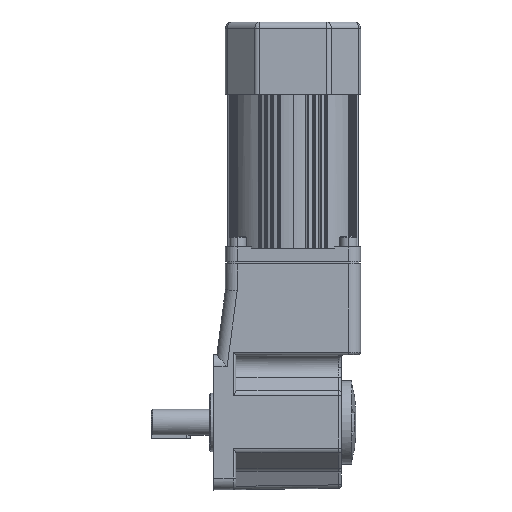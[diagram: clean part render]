
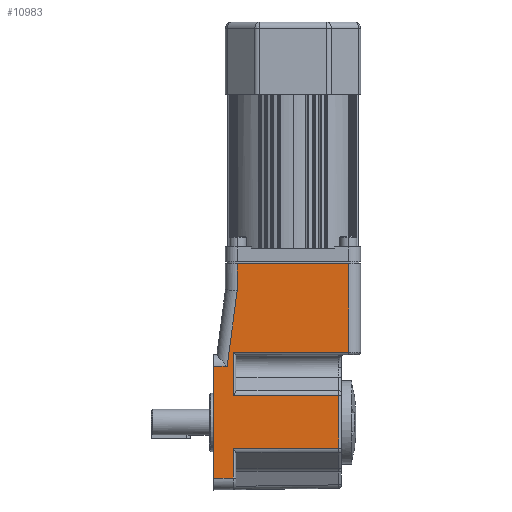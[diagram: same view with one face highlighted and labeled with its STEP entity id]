
A CAD part, left-side view. The second image highlights one B-rep face of the part: STEP entity #10983.
In plain terms, the highlighted planar face has unit normal (-1, 0, 0).
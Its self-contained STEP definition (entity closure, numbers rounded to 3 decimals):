
#150 = ORIENTED_EDGE ( 'NONE', *, *, #320, .F. ) ;
#320 = EDGE_CURVE ( 'NONE', #40472, #17712, #39098, .T. ) ;
#1193 = DIRECTION ( 'NONE',  ( 0., 0., 1. ) ) ;
#1948 = CARTESIAN_POINT ( 'NONE',  ( -52., -116.5, 52. ) ) ;
#4056 = CARTESIAN_POINT ( 'NONE',  ( -52., -21.5, 122. ) ) ;
#4383 = DIRECTION ( 'NONE',  ( 0., 1., 0. ) ) ;
#4481 = VECTOR ( 'NONE', #4383, 1000. ) ;
#5791 = DIRECTION ( 'NONE',  ( 1., 0., 0. ) ) ;
#6692 = CARTESIAN_POINT ( 'NONE',  ( -52., -18.5, 52. ) ) ;
#6716 = VECTOR ( 'NONE', #33221, 1000. ) ;
#7794 = VECTOR ( 'NONE', #29764, 1000. ) ;
#10026 = ORIENTED_EDGE ( 'NONE', *, *, #32761, .F. ) ;
#10575 = VECTOR ( 'NONE', #25429, 1000. ) ;
#10983 = ADVANCED_FACE ( 'NONE', ( #26076 ), #24693, .F. ) ;
#11505 = EDGE_LOOP ( 'NONE', ( #40462, #16150, #31699, #41506, #25168, #29544, #44488, #150, #39519, #10026, #32026, #40245, #19969 ) ) ;
#11749 = LINE ( 'NONE', #6692, #10575 ) ;
#12468 = VERTEX_POINT ( 'NONE', #37176 ) ;
#13934 = VECTOR ( 'NONE', #20996, 1000. ) ;
#14550 = VECTOR ( 'NONE', #39089, 1000. ) ;
#14622 = CARTESIAN_POINT ( 'NONE',  ( -52., -18.5, 20.536 ) ) ;
#15272 = EDGE_CURVE ( 'NONE', #19710, #36243, #11749, .T. ) ;
#15413 = VERTEX_POINT ( 'NONE', #18604 ) ;
#16150 = ORIENTED_EDGE ( 'NONE', *, *, #19119, .F. ) ;
#16191 = VECTOR ( 'NONE', #38711, 1000. ) ;
#16797 = LINE ( 'NONE', #29382, #6716 ) ;
#17712 = VERTEX_POINT ( 'NONE', #20836 ) ;
#17879 = LINE ( 'NONE', #45041, #7794 ) ;
#17955 = EDGE_CURVE ( 'NONE', #12468, #20166, #25843, .T. ) ;
#18604 = CARTESIAN_POINT ( 'NONE',  ( -52., -18.5, -42.79 ) ) ;
#19067 = DIRECTION ( 'NONE',  ( 0., 1., 0. ) ) ;
#19119 = EDGE_CURVE ( 'NONE', #20166, #25472, #24033, .T. ) ;
#19625 = EDGE_CURVE ( 'NONE', #15413, #45744, #38888, .T. ) ;
#19710 = VERTEX_POINT ( 'NONE', #42183 ) ;
#19969 = ORIENTED_EDGE ( 'NONE', *, *, #19986, .F. ) ;
#19986 = EDGE_CURVE ( 'NONE', #32813, #30918, #35907, .T. ) ;
#20166 = VERTEX_POINT ( 'NONE', #30176 ) ;
#20836 = CARTESIAN_POINT ( 'NONE',  ( -52., -18.5, -19.741 ) ) ;
#20996 = DIRECTION ( 'NONE',  ( 0., 0., 1. ) ) ;
#21376 = VECTOR ( 'NONE', #1193, 1000. ) ;
#22353 = CARTESIAN_POINT ( 'NONE',  ( -52., -107.5, 122. ) ) ;
#22561 = LINE ( 'NONE', #23772, #21376 ) ;
#23772 = CARTESIAN_POINT ( 'NONE',  ( -52., -3.5, 52. ) ) ;
#23779 = CARTESIAN_POINT ( 'NONE',  ( -52., -3.5, 43. ) ) ;
#24033 = LINE ( 'NONE', #28471, #13934 ) ;
#24693 = PLANE ( 'NONE',  #25488 ) ;
#24711 = CARTESIAN_POINT ( 'NONE',  ( -52., -18.5, 52. ) ) ;
#25168 = ORIENTED_EDGE ( 'NONE', *, *, #48501, .F. ) ;
#25207 = DIRECTION ( 'NONE',  ( 0., 0., -1. ) ) ;
#25429 = DIRECTION ( 'NONE',  ( 0., 0., -1. ) ) ;
#25472 = VERTEX_POINT ( 'NONE', #4056 ) ;
#25488 = AXIS2_PLACEMENT_3D ( 'NONE', #1948, #5791, #32369 ) ;
#25760 = VECTOR ( 'NONE', #25207, 1000. ) ;
#25843 = LINE ( 'NONE', #46551, #14550 ) ;
#25849 = LINE ( 'NONE', #34789, #4481 ) ;
#26076 = FACE_OUTER_BOUND ( 'NONE', #11505, .T. ) ;
#26577 = DIRECTION ( 'NONE',  ( 0., 1., 0. ) ) ;
#27786 = VECTOR ( 'NONE', #19067, 1000. ) ;
#28471 = CARTESIAN_POINT ( 'NONE',  ( -52., -21.5, 52. ) ) ;
#29382 = CARTESIAN_POINT ( 'NONE',  ( -52., -116.5, 20.536 ) ) ;
#29544 = ORIENTED_EDGE ( 'NONE', *, *, #19625, .F. ) ;
#29764 = DIRECTION ( 'NONE',  ( 0., 0., -1. ) ) ;
#30080 = CARTESIAN_POINT ( 'NONE',  ( -52., -18.5, -42.79 ) ) ;
#30176 = CARTESIAN_POINT ( 'NONE',  ( -52., -21.5, 101.409 ) ) ;
#30191 = CARTESIAN_POINT ( 'NONE',  ( -52., -99.5, 20.536 ) ) ;
#30918 = VERTEX_POINT ( 'NONE', #40600 ) ;
#31058 = CARTESIAN_POINT ( 'NONE',  ( -52., -116.5, 43. ) ) ;
#31127 = LINE ( 'NONE', #24711, #40037 ) ;
#31243 = EDGE_CURVE ( 'NONE', #30918, #19710, #25849, .T. ) ;
#31699 = ORIENTED_EDGE ( 'NONE', *, *, #17955, .F. ) ;
#32026 = ORIENTED_EDGE ( 'NONE', *, *, #15272, .F. ) ;
#32369 = DIRECTION ( 'NONE',  ( 0., 0., -1. ) ) ;
#32711 = CARTESIAN_POINT ( 'NONE',  ( -52., -107.5, 52. ) ) ;
#32761 = EDGE_CURVE ( 'NONE', #36243, #49123, #16797, .T. ) ;
#32813 = VERTEX_POINT ( 'NONE', #22353 ) ;
#33221 = DIRECTION ( 'NONE',  ( 0., -1., 0. ) ) ;
#33297 = LINE ( 'NONE', #45524, #40995 ) ;
#34104 = EDGE_CURVE ( 'NONE', #49123, #40472, #17879, .T. ) ;
#34789 = CARTESIAN_POINT ( 'NONE',  ( -52., -116.5, 54. ) ) ;
#35907 = LINE ( 'NONE', #32711, #25760 ) ;
#36049 = DIRECTION ( 'NONE',  ( 0., 0., -1. ) ) ;
#36243 = VERTEX_POINT ( 'NONE', #14622 ) ;
#37176 = CARTESIAN_POINT ( 'NONE',  ( -52., -13.79, 43. ) ) ;
#37439 = VERTEX_POINT ( 'NONE', #23779 ) ;
#37725 = VECTOR ( 'NONE', #49175, 1000. ) ;
#38711 = DIRECTION ( 'NONE',  ( 0., -1., 0. ) ) ;
#38888 = LINE ( 'NONE', #30080, #37725 ) ;
#39089 = DIRECTION ( 'NONE',  ( 0., -0.131, 0.991 ) ) ;
#39098 = LINE ( 'NONE', #45499, #27786 ) ;
#39519 = ORIENTED_EDGE ( 'NONE', *, *, #34104, .F. ) ;
#40037 = VECTOR ( 'NONE', #36049, 1000. ) ;
#40245 = ORIENTED_EDGE ( 'NONE', *, *, #31243, .F. ) ;
#40462 = ORIENTED_EDGE ( 'NONE', *, *, #48757, .T. ) ;
#40472 = VERTEX_POINT ( 'NONE', #42156 ) ;
#40600 = CARTESIAN_POINT ( 'NONE',  ( -52., -107.5, 54. ) ) ;
#40625 = CARTESIAN_POINT ( 'NONE',  ( -52., -3.5, -42.999 ) ) ;
#40995 = VECTOR ( 'NONE', #26577, 1000. ) ;
#41506 = ORIENTED_EDGE ( 'NONE', *, *, #46639, .F. ) ;
#42156 = CARTESIAN_POINT ( 'NONE',  ( -52., -99.5, -19.741 ) ) ;
#42183 = CARTESIAN_POINT ( 'NONE',  ( -52., -18.5, 54. ) ) ;
#44488 = ORIENTED_EDGE ( 'NONE', *, *, #45113, .F. ) ;
#45041 = CARTESIAN_POINT ( 'NONE',  ( -52., -99.5, 52. ) ) ;
#45113 = EDGE_CURVE ( 'NONE', #17712, #15413, #31127, .T. ) ;
#45499 = CARTESIAN_POINT ( 'NONE',  ( -52., -116.5, -19.741 ) ) ;
#45524 = CARTESIAN_POINT ( 'NONE',  ( -52., -21.5, 122. ) ) ;
#45744 = VERTEX_POINT ( 'NONE', #40625 ) ;
#46513 = LINE ( 'NONE', #31058, #16191 ) ;
#46551 = CARTESIAN_POINT ( 'NONE',  ( -52., -13.79, 43. ) ) ;
#46639 = EDGE_CURVE ( 'NONE', #37439, #12468, #46513, .T. ) ;
#48501 = EDGE_CURVE ( 'NONE', #45744, #37439, #22561, .T. ) ;
#48757 = EDGE_CURVE ( 'NONE', #32813, #25472, #33297, .T. ) ;
#49123 = VERTEX_POINT ( 'NONE', #30191 ) ;
#49175 = DIRECTION ( 'NONE',  ( 0., 1., -0.014 ) ) ;
